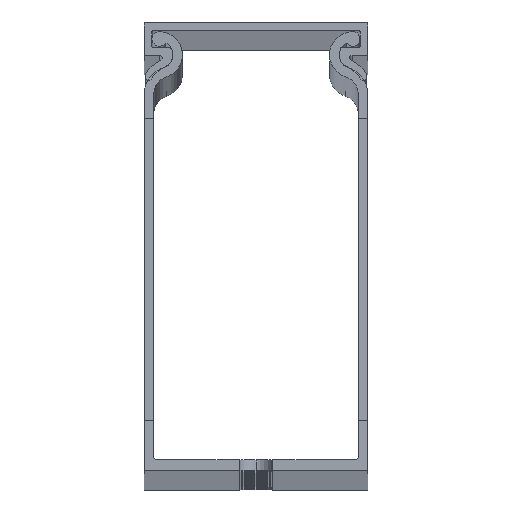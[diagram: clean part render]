
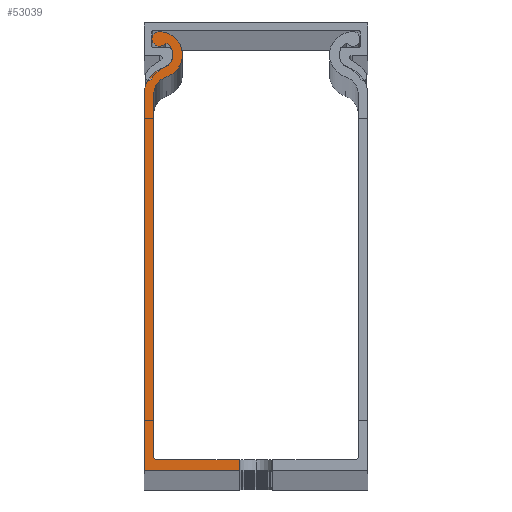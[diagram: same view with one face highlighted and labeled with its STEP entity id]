
A CAD part, top view. The second image highlights one B-rep face of the part: STEP entity #53039.
In plain terms, the highlighted planar face has unit normal (0, 0, 1).
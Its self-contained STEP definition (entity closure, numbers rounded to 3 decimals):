
#388 = CARTESIAN_POINT ( 'NONE',  ( 2551.785, 1295.408, 2000. ) ) ;
#686 = ORIENTED_EDGE ( 'NONE', *, *, #41807, .T. ) ;
#958 = CARTESIAN_POINT ( 'NONE',  ( 2550.607, 1218.956, 2000. ) ) ;
#1384 = AXIS2_PLACEMENT_3D ( 'NONE', #52617, #31972, #15954 ) ;
#1884 = CARTESIAN_POINT ( 'NONE',  ( 2548.407, 1217.056, 2000. ) ) ;
#2569 = AXIS2_PLACEMENT_3D ( 'NONE', #14671, #43421, #6693 ) ;
#3299 = VERTEX_POINT ( 'NONE', #958 ) ;
#4322 = CARTESIAN_POINT ( 'NONE',  ( 2548.407, 1284.233, 2000. ) ) ;
#4665 = CIRCLE ( 'NONE', #33275, 2.4 ) ;
#6688 = CARTESIAN_POINT ( 'NONE',  ( 2553.507, 1284.233, 2000. ) ) ;
#6693 = DIRECTION ( 'NONE',  ( 1., 0., 0. ) ) ;
#7206 = CARTESIAN_POINT ( 'NONE',  ( 2550.607, 1219.456, 2000. ) ) ;
#7712 = VERTEX_POINT ( 'NONE', #17043 ) ;
#8291 = LINE ( 'NONE', #50081, #48850 ) ;
#8796 = CARTESIAN_POINT ( 'NONE',  ( 2551.159, 1291.356, 2000. ) ) ;
#9453 = CARTESIAN_POINT ( 'NONE',  ( 2551.91, 1289.077, 2000. ) ) ;
#10059 = AXIS2_PLACEMENT_3D ( 'NONE', #25001, #42129, #50421 ) ;
#10232 = VERTEX_POINT ( 'NONE', #30072 ) ;
#10948 = CARTESIAN_POINT ( 'NONE',  ( 2548.407, 1217.056, 2000. ) ) ;
#12724 = EDGE_CURVE ( 'NONE', #36097, #7712, #8291, .T. ) ;
#12877 = VERTEX_POINT ( 'NONE', #14274 ) ;
#13515 = CARTESIAN_POINT ( 'NONE',  ( 2568.407, 1217.056, 2000. ) ) ;
#13619 = ORIENTED_EDGE ( 'NONE', *, *, #19801, .T. ) ;
#14274 = CARTESIAN_POINT ( 'NONE',  ( 2552.287, 1293.474, 2000. ) ) ;
#14433 = VECTOR ( 'NONE', #23340, 1000. ) ;
#14454 = CARTESIAN_POINT ( 'NONE',  ( 2552.442, 1287.462, 2000. ) ) ;
#14671 = CARTESIAN_POINT ( 'NONE',  ( 2551.157, 1294.213, 2000. ) ) ;
#15954 = DIRECTION ( 'NONE',  ( 1., 0., 0. ) ) ;
#17043 = CARTESIAN_POINT ( 'NONE',  ( 2565.407, 1217.056, 2000. ) ) ;
#17160 = DIRECTION ( 'NONE',  ( 1., 0., 0. ) ) ;
#17926 = VECTOR ( 'NONE', #28122, 1000. ) ;
#18383 = DIRECTION ( 'NONE',  ( 0., 1., 0. ) ) ;
#18568 = EDGE_CURVE ( 'NONE', #10232, #24047, #21439, .T. ) ;
#19219 = AXIS2_PLACEMENT_3D ( 'NONE', #7206, #52717, #19445 ) ;
#19418 = FACE_OUTER_BOUND ( 'NONE', #38471, .T. ) ;
#19445 = DIRECTION ( 'NONE',  ( 1., 0., 0. ) ) ;
#19562 = CIRCLE ( 'NONE', #10059, 3.4 ) ;
#19625 = EDGE_CURVE ( 'NONE', #3299, #49576, #52328, .T. ) ;
#19685 = DIRECTION ( 'NONE',  ( 0., 0., -1. ) ) ;
#19801 = EDGE_CURVE ( 'NONE', #24047, #7712, #36548, .T. ) ;
#20215 = VECTOR ( 'NONE', #18383, 1000. ) ;
#21178 = DIRECTION ( 'NONE',  ( 1., 0., 0. ) ) ;
#21439 = LINE ( 'NONE', #10948, #14433 ) ;
#22062 = VERTEX_POINT ( 'NONE', #27083 ) ;
#22084 = DIRECTION ( 'NONE',  ( 1., 0., 0. ) ) ;
#22439 = CARTESIAN_POINT ( 'NONE',  ( 2553.507, 1284.233, 2000. ) ) ;
#23340 = DIRECTION ( 'NONE',  ( 0., -1., 0. ) ) ;
#24047 = VERTEX_POINT ( 'NONE', #1884 ) ;
#24103 = AXIS2_PLACEMENT_3D ( 'NONE', #45477, #41674, #24738 ) ;
#24738 = DIRECTION ( 'NONE',  ( 1., 0., 0. ) ) ;
#25001 = CARTESIAN_POINT ( 'NONE',  ( 2553.507, 1284.233, 2000. ) ) ;
#25617 = LINE ( 'NONE', #32275, #17926 ) ;
#25762 = VERTEX_POINT ( 'NONE', #35923 ) ;
#25949 = CARTESIAN_POINT ( 'NONE',  ( 2550.107, 1284.202, 2000. ) ) ;
#26102 = DIRECTION ( 'NONE',  ( 0., 0., 1. ) ) ;
#27083 = CARTESIAN_POINT ( 'NONE',  ( 2550.107, 1284.233, 2000. ) ) ;
#27460 = CIRCLE ( 'NONE', #37945, 4.1 ) ;
#27978 = CARTESIAN_POINT ( 'NONE',  ( 2551.159, 1291.356, 2000. ) ) ;
#28122 = DIRECTION ( 'NONE',  ( -1., 0., 0. ) ) ;
#28285 = ORIENTED_EDGE ( 'NONE', *, *, #47770, .T. ) ;
#29148 = ORIENTED_EDGE ( 'NONE', *, *, #19625, .T. ) ;
#29186 = EDGE_CURVE ( 'NONE', #36097, #3299, #25617, .T. ) ;
#29236 = ORIENTED_EDGE ( 'NONE', *, *, #52060, .T. ) ;
#29986 = EDGE_CURVE ( 'NONE', #37099, #30553, #27460, .T. ) ;
#30069 = EDGE_CURVE ( 'NONE', #22062, #37099, #34581, .T. ) ;
#30072 = CARTESIAN_POINT ( 'NONE',  ( 2548.407, 1284.196, 2000. ) ) ;
#30553 = VERTEX_POINT ( 'NONE', #388 ) ;
#30588 = VERTEX_POINT ( 'NONE', #9453 ) ;
#30633 = CARTESIAN_POINT ( 'NONE',  ( 2550.107, 1284.202, 2000. ) ) ;
#31972 = DIRECTION ( 'NONE',  ( 0., 0., 1. ) ) ;
#32275 = CARTESIAN_POINT ( 'NONE',  ( 2568.407, 1218.956, 2000. ) ) ;
#32838 = EDGE_CURVE ( 'NONE', #30553, #25762, #51846, .T. ) ;
#33275 = AXIS2_PLACEMENT_3D ( 'NONE', #27978, #19685, #48511 ) ;
#33376 = CIRCLE ( 'NONE', #24103, 5.1 ) ;
#34291 = ORIENTED_EDGE ( 'NONE', *, *, #30069, .T. ) ;
#34581 = CIRCLE ( 'NONE', #40703, 3.4 ) ;
#34986 = DIRECTION ( 'NONE',  ( 1., 0., 0. ) ) ;
#35923 = CARTESIAN_POINT ( 'NONE',  ( 2549.807, 1294.213, 2000. ) ) ;
#36097 = VERTEX_POINT ( 'NONE', #52097 ) ;
#36319 = ORIENTED_EDGE ( 'NONE', *, *, #18568, .T. ) ;
#36548 = LINE ( 'NONE', #13515, #37849 ) ;
#36960 = ORIENTED_EDGE ( 'NONE', *, *, #38429, .T. ) ;
#37099 = VERTEX_POINT ( 'NONE', #14454 ) ;
#37812 = DIRECTION ( 'NONE',  ( 1., 0., 0. ) ) ;
#37849 = VECTOR ( 'NONE', #37812, 1000. ) ;
#37945 = AXIS2_PLACEMENT_3D ( 'NONE', #8796, #45879, #21178 ) ;
#38034 = CARTESIAN_POINT ( 'NONE',  ( 2551.157, 1294.213, 2000. ) ) ;
#38429 = EDGE_CURVE ( 'NONE', #49576, #50100, #52388, .T. ) ;
#38471 = EDGE_LOOP ( 'NONE', ( #41320, #45472, #29148, #36960, #29236, #34291, #45323, #47697, #53413, #28285, #686, #46936, #36319, #13619 ) ) ;
#38853 = CARTESIAN_POINT ( 'NONE',  ( 2550.107, 1219.456, 2000. ) ) ;
#40592 = PLANE ( 'NONE',  #1384 ) ;
#40703 = AXIS2_PLACEMENT_3D ( 'NONE', #22439, #46763, #22084 ) ;
#41320 = ORIENTED_EDGE ( 'NONE', *, *, #12724, .F. ) ;
#41606 = DIRECTION ( 'NONE',  ( 0., -1., 0. ) ) ;
#41674 = DIRECTION ( 'NONE',  ( 0., 0., 1. ) ) ;
#41701 = AXIS2_PLACEMENT_3D ( 'NONE', #38034, #26102, #17160 ) ;
#41807 = EDGE_CURVE ( 'NONE', #30588, #50524, #33376, .T. ) ;
#42129 = DIRECTION ( 'NONE',  ( 0., 0., -1. ) ) ;
#42626 = CIRCLE ( 'NONE', #2569, 1.35 ) ;
#43421 = DIRECTION ( 'NONE',  ( 0., 0., 1. ) ) ;
#43753 = DIRECTION ( 'NONE',  ( 0., 0., 1. ) ) ;
#45050 = EDGE_CURVE ( 'NONE', #50524, #10232, #48166, .T. ) ;
#45323 = ORIENTED_EDGE ( 'NONE', *, *, #29986, .T. ) ;
#45472 = ORIENTED_EDGE ( 'NONE', *, *, #29186, .T. ) ;
#45477 = CARTESIAN_POINT ( 'NONE',  ( 2553.507, 1284.233, 2000. ) ) ;
#45879 = DIRECTION ( 'NONE',  ( 0., 0., 1. ) ) ;
#46763 = DIRECTION ( 'NONE',  ( 0., 0., -1. ) ) ;
#46936 = ORIENTED_EDGE ( 'NONE', *, *, #45050, .T. ) ;
#47480 = AXIS2_PLACEMENT_3D ( 'NONE', #6688, #43753, #34986 ) ;
#47697 = ORIENTED_EDGE ( 'NONE', *, *, #32838, .T. ) ;
#47770 = EDGE_CURVE ( 'NONE', #12877, #30588, #4665, .T. ) ;
#48123 = EDGE_CURVE ( 'NONE', #25762, #12877, #42626, .T. ) ;
#48166 = CIRCLE ( 'NONE', #47480, 5.1 ) ;
#48511 = DIRECTION ( 'NONE',  ( 1., 0., 0. ) ) ;
#48850 = VECTOR ( 'NONE', #41606, 1000. ) ;
#49576 = VERTEX_POINT ( 'NONE', #38853 ) ;
#50081 = CARTESIAN_POINT ( 'NONE',  ( 2565.407, 1284.233, 2000. ) ) ;
#50100 = VERTEX_POINT ( 'NONE', #25949 ) ;
#50421 = DIRECTION ( 'NONE',  ( 1., 0., 0. ) ) ;
#50524 = VERTEX_POINT ( 'NONE', #4322 ) ;
#51846 = CIRCLE ( 'NONE', #41701, 1.35 ) ;
#52060 = EDGE_CURVE ( 'NONE', #50100, #22062, #19562, .T. ) ;
#52097 = CARTESIAN_POINT ( 'NONE',  ( 2565.407, 1218.956, 2000. ) ) ;
#52328 = CIRCLE ( 'NONE', #19219, 0.5 ) ;
#52388 = LINE ( 'NONE', #30633, #20215 ) ;
#52617 = CARTESIAN_POINT ( 'NONE',  ( 2553.507, 1284.233, 2000. ) ) ;
#52717 = DIRECTION ( 'NONE',  ( 0., 0., -1. ) ) ;
#53039 = ADVANCED_FACE ( 'NONE', ( #19418 ), #40592, .T. ) ;
#53413 = ORIENTED_EDGE ( 'NONE', *, *, #48123, .T. ) ;
